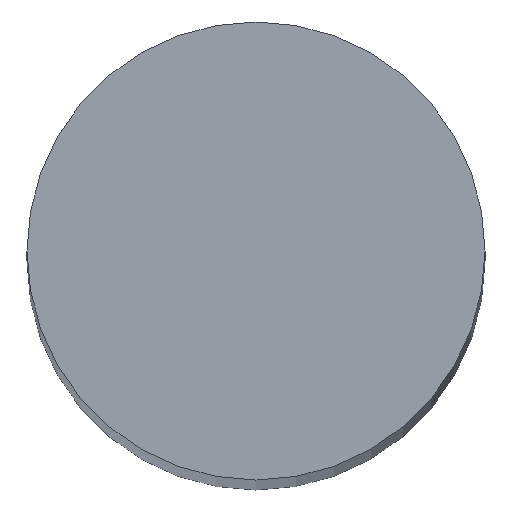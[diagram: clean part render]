
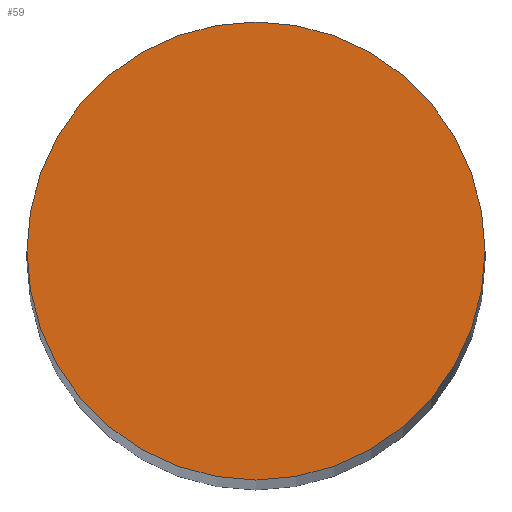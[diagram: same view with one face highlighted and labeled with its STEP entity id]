
A CAD part, top view. The second image highlights one B-rep face of the part: STEP entity #59.
In plain terms, the highlighted planar face has unit normal (0, 0, 1).
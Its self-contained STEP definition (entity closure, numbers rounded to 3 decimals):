
#13 = DIRECTION ( 'NONE',  ( 1., 0., 0. ) ) ;
#23 = DIRECTION ( 'NONE',  ( 0., 0., 1. ) ) ;
#34 = FACE_OUTER_BOUND ( 'NONE', #37, .T. ) ;
#37 = EDGE_LOOP ( 'NONE', ( #127, #131 ) ) ;
#40 = VERTEX_POINT ( 'NONE', #126 ) ;
#50 = DIRECTION ( 'NONE',  ( 1., 0., 0. ) ) ;
#59 = ADVANCED_FACE ( 'NONE', ( #34 ), #137, .T. ) ;
#61 = CARTESIAN_POINT ( 'NONE',  ( 0.498, 0.358, 250. ) ) ;
#74 = AXIS2_PLACEMENT_3D ( 'NONE', #75, #99, #50 ) ;
#75 = CARTESIAN_POINT ( 'NONE',  ( 0.498, 0.358, 250. ) ) ;
#77 = CIRCLE ( 'NONE', #163, 10. ) ;
#87 = CARTESIAN_POINT ( 'NONE',  ( 10.498, 0.358, 250. ) ) ;
#88 = DIRECTION ( 'NONE',  ( 1., 0., 0. ) ) ;
#99 = DIRECTION ( 'NONE',  ( 0., 0., 1. ) ) ;
#100 = DIRECTION ( 'NONE',  ( 0., 0., 1. ) ) ;
#113 = VERTEX_POINT ( 'NONE', #87 ) ;
#125 = CIRCLE ( 'NONE', #128, 10. ) ;
#126 = CARTESIAN_POINT ( 'NONE',  ( -9.502, 0.358, 250. ) ) ;
#127 = ORIENTED_EDGE ( 'NONE', *, *, #141, .T. ) ;
#128 = AXIS2_PLACEMENT_3D ( 'NONE', #138, #23, #13 ) ;
#131 = ORIENTED_EDGE ( 'NONE', *, *, #145, .T. ) ;
#137 = PLANE ( 'NONE',  #74 ) ;
#138 = CARTESIAN_POINT ( 'NONE',  ( 0.498, 0.358, 250. ) ) ;
#141 = EDGE_CURVE ( 'NONE', #40, #113, #125, .T. ) ;
#145 = EDGE_CURVE ( 'NONE', #113, #40, #77, .T. ) ;
#163 = AXIS2_PLACEMENT_3D ( 'NONE', #61, #100, #88 ) ;
